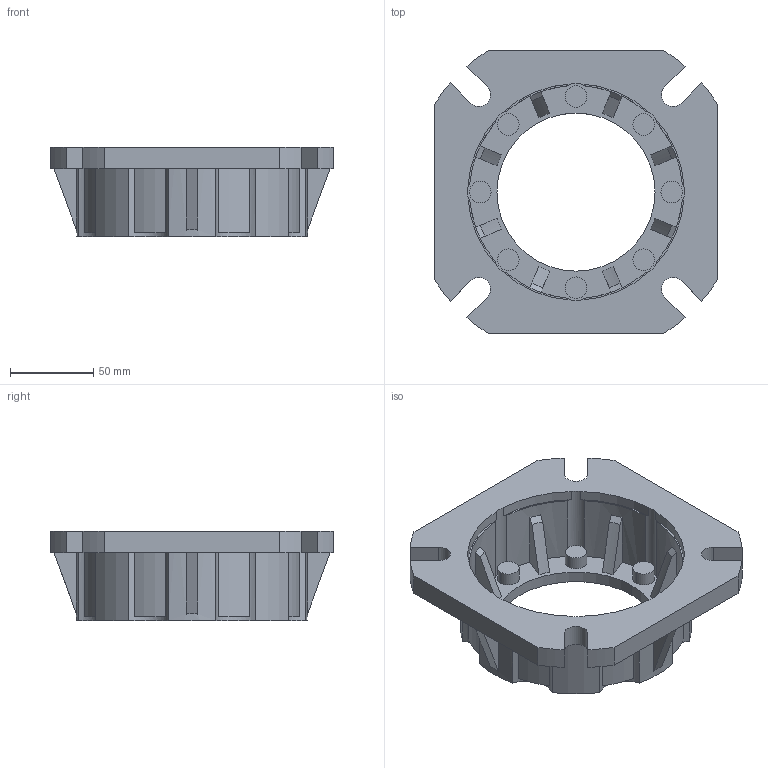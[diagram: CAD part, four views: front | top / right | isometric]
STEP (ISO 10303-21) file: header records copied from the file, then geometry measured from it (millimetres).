
FILE_DESCRIPTION(/* description */ (''),/* implementation_level */ '2;1');
FILE_NAME(/* name */ '1_FLANGIA (CAMPANA) LATERALE FA BA72',/* time_stamp */ '2025-10-22T11:49:48+02:00',/* author */ (''),/* organization */ (''),/* preprocessor_version */ 'ST-DEVELOPER v19.2',/* originating_system */ 'Rhino 8.23',/* authorisation */ '');
FILE_SCHEMA (('CONFIG_CONTROL_DESIGN'));
Length unit declared in the file: millimetre
Products named in the file (2): Document; BFUA72FA
Bounding box: 170 x 170 x 54 mm (x, y, z)
Volume: 303886.3 mm3; surface area: 95428.3 mm2
Topology: 1 solids, 1 shells, 162 faces, 450 edges, 300 vertices
Faces by surface type: cylinder 78, plane 68, bspline 16
Entity records: 7263 total; most frequent: CARTESIAN_POINT 1842, ORIENTED_EDGE 900, DIRECTION 602, EDGE_CURVE 450, AXIS2_PLACEMENT_3D 374, VERTEX_POINT 300, TRIMMED_CURVE 224, CIRCLE 224
